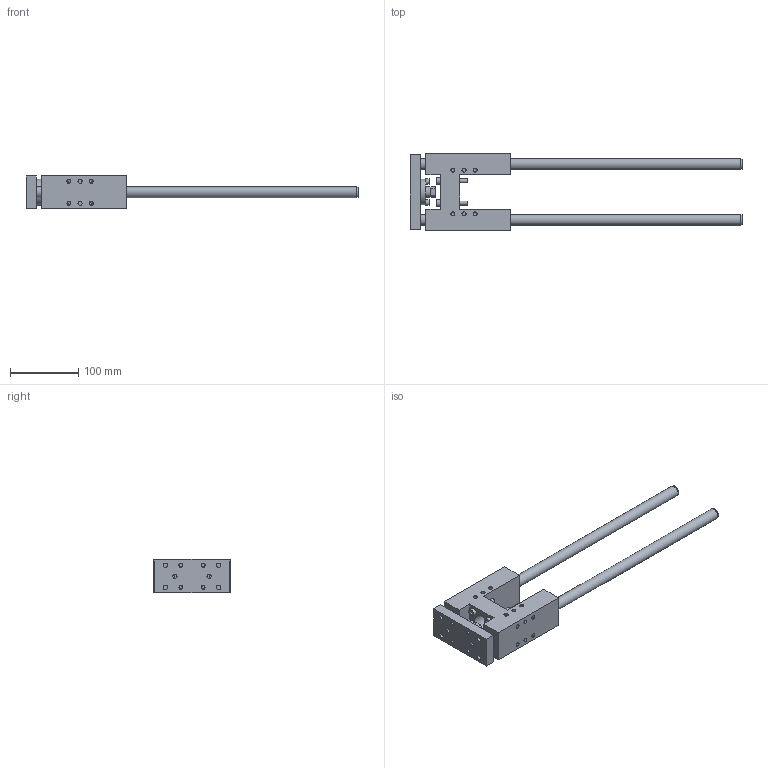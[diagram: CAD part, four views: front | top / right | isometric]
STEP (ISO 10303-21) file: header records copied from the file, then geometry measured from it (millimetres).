
FILE_DESCRIPTION( ( 'STEP AP214' ), '1' );
FILE_NAME( 'U:/Etudes/Top Solid/BIBLIO 3D AVM/TOP/PNEUMATIQUE/GUIDAGES/Type 32 (en H)/R_Renforcée/324R6_30.step', '2005-05-27T08:52:25', ( ' ' ), ( ' ' ), 'XStep 1.0', ' ', ' ' );
FILE_SCHEMA( ( 'automotive_design' ) );
Length unit declared in the file: metre
Products named in the file (2): 1; 2
Bounding box: 487 x 112 x 49 mm (x, y, z)
Volume: 647614.7 mm3; surface area: 144339.5 mm2
Topology: 2 solids, 5 shells, 269 faces, 602 edges, 401 vertices
Faces by surface type: plane 128, cylinder 96, cone 45
Full cylindrical faces by diameter (mm): 4.918 x32, 5 x4, 5.5 x2, 6 x16, 6.2 x12, 6.5 x4, 6.6 x4, 8.5 x2, 8.647 x2, 10 x4, 11 x4, 16 x5, 18 x1, 22.8 x1, 25 x1, 30 x1, 38 x1
Entity records: 8627 total; most frequent: CARTESIAN_POINT 1195, DIRECTION 1138, ORIENTED_EDGE 772, EDGE_LOOP 500, AXIS2_PLACEMENT_3D 487, EDGE_CURVE 386, FACE_OUTER_BOUND 365, VERTEX_POINT 340
